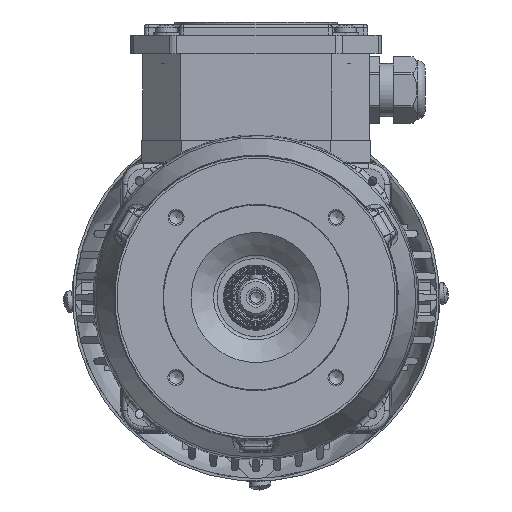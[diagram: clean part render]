
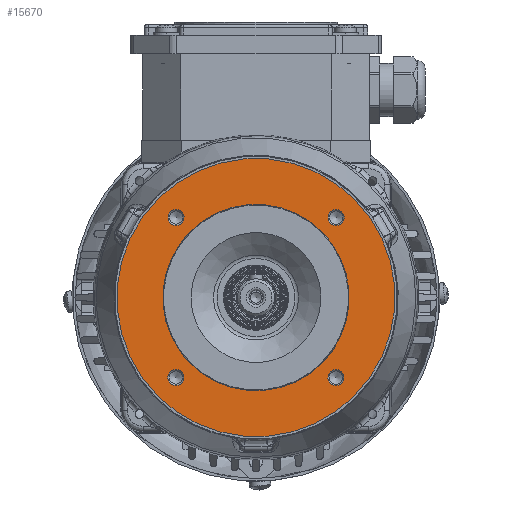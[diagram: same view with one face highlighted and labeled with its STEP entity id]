
A CAD part, front view. The second image highlights one B-rep face of the part: STEP entity #15670.
In plain terms, the highlighted planar face has unit normal (0, -1, 0).
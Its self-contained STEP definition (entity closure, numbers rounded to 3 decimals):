
#13249=PLANE('',#53237);
#15670=ADVANCED_FACE('',(#18469,#18470,#18471,#18472,#18473,#18474),#13249,
 .T.);
#18469=FACE_BOUND('',#20199,.T.);
#18470=FACE_BOUND('',#20200,.T.);
#18471=FACE_BOUND('',#20201,.T.);
#18472=FACE_BOUND('',#20202,.T.);
#18473=FACE_BOUND('',#20203,.T.);
#18474=FACE_BOUND('',#20204,.T.);
#20199=EDGE_LOOP('',(#26809));
#20200=EDGE_LOOP('',(#26810));
#20201=EDGE_LOOP('',(#26811));
#20202=EDGE_LOOP('',(#26812));
#20203=EDGE_LOOP('',(#26813));
#20204=EDGE_LOOP('',(#26814));
#26809=ORIENTED_EDGE('',*,*,#43996,.T.);
#26810=ORIENTED_EDGE('',*,*,#43997,.T.);
#26811=ORIENTED_EDGE('',*,*,#43998,.T.);
#26812=ORIENTED_EDGE('',*,*,#43999,.T.);
#26813=ORIENTED_EDGE('',*,*,#43995,.T.);
#26814=ORIENTED_EDGE('',*,*,#44000,.F.);
#38582=VERTEX_POINT('',#78659);
#38583=VERTEX_POINT('',#78662);
#38584=VERTEX_POINT('',#78664);
#38585=VERTEX_POINT('',#78666);
#38586=VERTEX_POINT('',#78668);
#38587=VERTEX_POINT('',#78670);
#43995=EDGE_CURVE('',#38582,#38582,#49873,.T.);
#43996=EDGE_CURVE('',#38583,#38583,#49874,.T.);
#43997=EDGE_CURVE('',#38584,#38584,#49875,.T.);
#43998=EDGE_CURVE('',#38585,#38585,#49876,.T.);
#43999=EDGE_CURVE('',#38586,#38586,#49877,.T.);
#44000=EDGE_CURVE('',#38587,#38587,#49878,.T.);
#49873=CIRCLE('',#53230,35.);
#49874=CIRCLE('',#53232,3.);
#49875=CIRCLE('',#53233,3.);
#49876=CIRCLE('',#53234,3.);
#49877=CIRCLE('',#53235,3.);
#49878=CIRCLE('',#53236,52.25);
#53230=AXIS2_PLACEMENT_3D('',#78658,#60721,#60722);
#53232=AXIS2_PLACEMENT_3D('',#78661,#60725,#60726);
#53233=AXIS2_PLACEMENT_3D('',#78663,#60727,#60728);
#53234=AXIS2_PLACEMENT_3D('',#78665,#60729,#60730);
#53235=AXIS2_PLACEMENT_3D('',#78667,#60731,#60732);
#53236=AXIS2_PLACEMENT_3D('',#78669,#60733,#60734);
#53237=AXIS2_PLACEMENT_3D('',#78671,#60735,#60736);
#60721=DIRECTION('',(0.,1.,0.));
#60722=DIRECTION('',(0.707,0.,-0.708));
#60725=DIRECTION('',(0.,1.,0.));
#60726=DIRECTION('',(-0.707,0.,0.708));
#60727=DIRECTION('',(0.,1.,0.));
#60728=DIRECTION('',(-0.707,0.,0.708));
#60729=DIRECTION('',(0.,1.,0.));
#60730=DIRECTION('',(-0.707,0.,0.708));
#60731=DIRECTION('',(0.,1.,0.));
#60732=DIRECTION('',(-0.707,0.,0.708));
#60733=DIRECTION('',(0.,1.,0.));
#60734=DIRECTION('',(0.707,0.,-0.708));
#60735=DIRECTION('',(0.,-1.,0.));
#60736=DIRECTION('',(-0.707,0.,0.708));
#78658=CARTESIAN_POINT('',(0.,-47.,0.));
#78659=CARTESIAN_POINT('',(24.734,-47.,-24.764));
#78661=CARTESIAN_POINT('',(-30.034,-47.,30.07));
#78662=CARTESIAN_POINT('',(-32.154,-47.,32.193));
#78663=CARTESIAN_POINT('',(-30.07,-47.,-30.034));
#78664=CARTESIAN_POINT('',(-32.19,-47.,-27.911));
#78665=CARTESIAN_POINT('',(30.034,-47.,-30.07));
#78666=CARTESIAN_POINT('',(27.914,-47.,-27.948));
#78667=CARTESIAN_POINT('',(30.07,-47.,30.034));
#78668=CARTESIAN_POINT('',(27.95,-47.,32.156));
#78669=CARTESIAN_POINT('',(0.,-47.,0.));
#78670=CARTESIAN_POINT('',(36.924,-47.,-36.969));
#78671=CARTESIAN_POINT('',(0.,-47.,0.));
